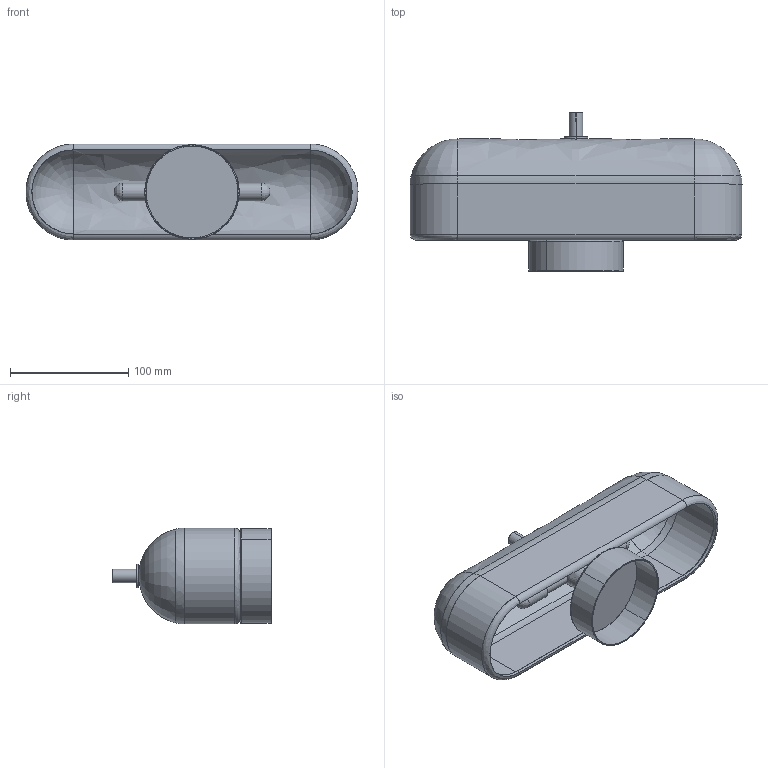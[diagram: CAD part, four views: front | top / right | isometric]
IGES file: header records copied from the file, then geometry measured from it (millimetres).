
Start section: SolidWorks IGES file using analytic representation for surfaces
Global section: file name: C:\Users\Agus\Desktop\PROPUESTAS SEPT.2019\UNCO\aplique - ok\A1281.IGS; native system: SolidWorks 2018; preprocessor: SolidWorks 2018; author: Agus; date: 191011.161627; units: millimetre
Bounding box: 281.33 x 134 x 81.33 mm (x, y, z)
Surface area: 166103 mm2 (no closed solid volume)
Topology: 0 solids, 0 shells, 92 faces, 1530 edges, 1528 vertices
Faces by surface type: revolution 57, bspline 35
